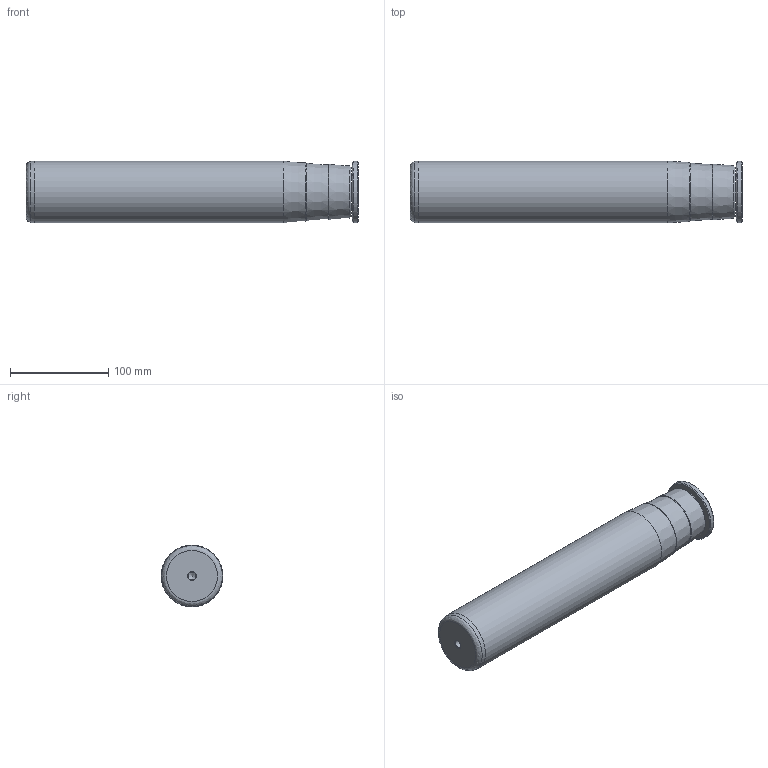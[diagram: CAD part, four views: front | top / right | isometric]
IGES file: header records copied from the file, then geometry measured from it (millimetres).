
Global section: file name: C5A63280.ipt; native system: Autodesk Inventor 2021; preprocessor: unknown; author: SM; date: 20211217.123252; units: millimetre
Bounding box: 338 x 63 x 63 mm (x, y, z)
Volume: 1012750.2 mm3; surface area: 79778.5 mm2
Topology: 3 solids, 3 shells, 61 faces, 149 edges, 96 vertices
Faces by surface type: plane 32, revolution 13, cone 9, cylinder 4, bspline 3
Full cylindrical faces by diameter (mm): 12 x1, 19.879 x1, 63 x2
